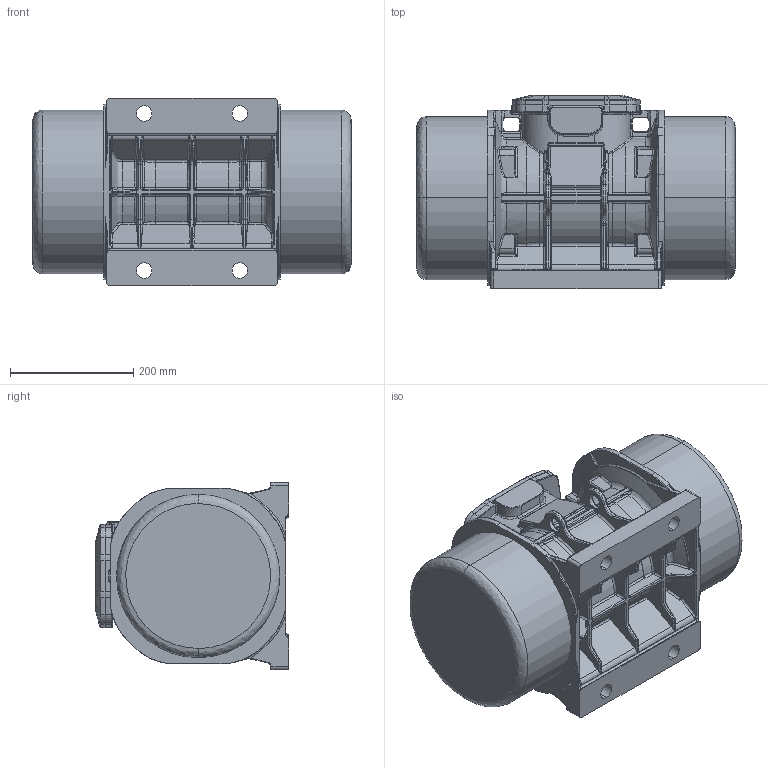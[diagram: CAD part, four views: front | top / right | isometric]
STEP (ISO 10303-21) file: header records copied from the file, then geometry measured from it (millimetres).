
FILE_DESCRIPTION (( 'STEP AP203' ), '1' );
FILE_NAME ('MVE3200-3-36_MVE4000-3-36-75A1.STEP', '2020-09-17T08:52:56', ( 'admin' ), ( 'Microsoft' ), 'SwSTEP 2.0', 'SolidWorks 2016', '' );
FILE_SCHEMA (( 'CONFIG_CONTROL_DESIGN' ));
Products named in the file (1): MVE3200-3-36_MVE4000-3-36-75A1
Bounding box: 516 x 314 x 304 mm (x, y, z)
Volume: 26231884.4 mm3; surface area: 872967.9 mm2
Topology: 1 solids, 1 shells, 1898 faces, 4615 edges, 2607 vertices
Faces by surface type: bspline 980, cylinder 629, plane 232, cone 38, torus 19
Entity records: 115038 total; most frequent: CARTESIAN_POINT 78663, ORIENTED_EDGE 9024, DIRECTION 5838, EDGE_CURVE 4512, VERTEX_POINT 2607, AXIS2_PLACEMENT_3D 2304, EDGE_LOOP 1909, FACE_OUTER_BOUND 1898
